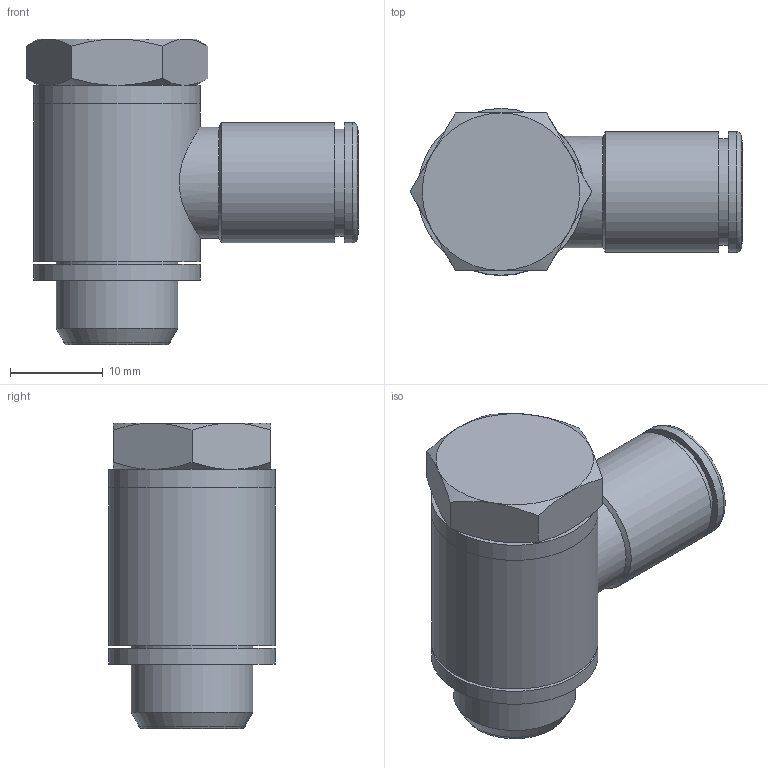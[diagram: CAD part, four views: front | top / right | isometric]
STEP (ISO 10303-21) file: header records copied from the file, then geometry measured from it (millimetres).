
FILE_DESCRIPTION(('Bauteilbeschreibung','HiCAD-Model','HiCAD-STEP-TRANSLATION','Bauteilbeschreibung'),'2;1');
FILE_NAME('B:/ABGLEICH/ZEICHNUNGEN/STEP FÜR INTERNET/STEP/S11208_IPSO_017_8_1-4.STP','2011-08-30T09:20:42+00:00',('Konstrukteur'),('Konstrukteur Firma GmbH'),' HiCAD neXt 2008, Step 3.1.1401.2J ','HiCAD neXt 2008','confidential');
FILE_SCHEMA(('AUTOMOTIVE_DESIGN { 1 2 10303 214 0 1 1 1 }'));
Length unit declared in the file: millimetre
Products named in the file (8): S11208_IPSO_017_8_1_4; A00033; A4403; A44030; G 1_4; A00043_DTG__1_4_UNV ; DR8_1_NEU; R201208_N
Assembly tree (7 placements, depth 3):
  S11208_IPSO_017_8_1_4
    A00033
    A4403
    A44030
      G 1_4
    A00043_DTG__1_4_UNV 
    DR8_1_NEU
    R201208_N
Bounding box: 35.81 x 18 x 33 mm (x, y, z)
Volume: 6586.8 mm3; surface area: 7871.3 mm2
Topology: 6 solids, 6 shells, 99 faces, 215 edges, 133 vertices
Faces by surface type: cone 34, plane 32, cylinder 32, torus 1
Full cylindrical faces by diameter (mm): 5 x2, 6.8 x1, 7 x1, 8.1 x1, 8.2 x1, 10.1 x1, 11 x2, 11.445 x2, 11.5 x1, 11.6 x1, 12 x1, 12.8 x1, 13 x2, 13.157 x1, 13.3 x2, 13.4 x1, 13.5 x1, 14 x1, 18 x3
Entity records: 6351 total; most frequent: CARTESIAN_POINT 3596, DIRECTION 432, ORIENTED_EDGE 292, AXIS2_PLACEMENT_3D 207, EDGE_LOOP 172, EDGE_CURVE 146, COLOUR_RGB 142, PRESENTATION_STYLE_ASSIGNMENT 142
